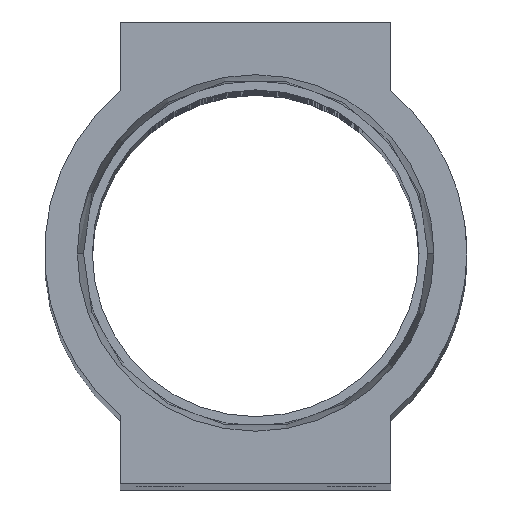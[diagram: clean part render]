
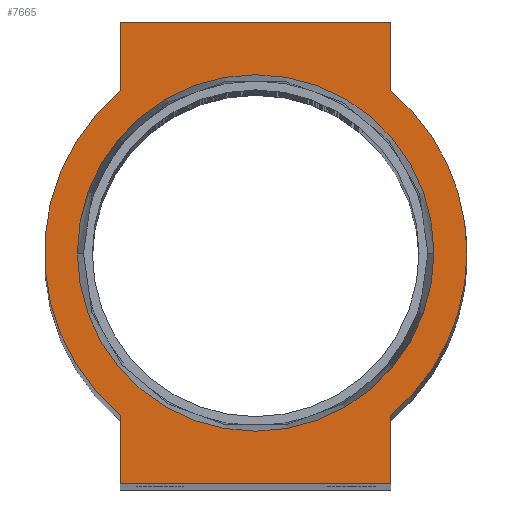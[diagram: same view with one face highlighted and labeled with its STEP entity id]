
A CAD part, top view. The second image highlights one B-rep face of the part: STEP entity #7665.
In plain terms, the highlighted planar face has unit normal (0, 0, 1).
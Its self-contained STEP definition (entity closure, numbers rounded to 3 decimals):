
#152 = EDGE_CURVE ( 'NONE', #3737, #10526, #8941, .T. ) ;
#542 = VECTOR ( 'NONE', #3922, 1000. ) ;
#1403 = VERTEX_POINT ( 'NONE', #6274 ) ;
#1463 = ORIENTED_EDGE ( 'NONE', *, *, #152, .T. ) ;
#1607 = ORIENTED_EDGE ( 'NONE', *, *, #6277, .F. ) ;
#1637 = EDGE_CURVE ( 'NONE', #11721, #2885, #7861, .T. ) ;
#1684 = VERTEX_POINT ( 'NONE', #3119 ) ;
#1737 = DIRECTION ( 'NONE',  ( 0., 0., 1. ) ) ;
#2238 = VECTOR ( 'NONE', #9336, 1000. ) ;
#2259 = ORIENTED_EDGE ( 'NONE', *, *, #7930, .T. ) ;
#2376 = CARTESIAN_POINT ( 'NONE',  ( 0., 0., 0. ) ) ;
#2377 = LINE ( 'NONE', #7306, #2238 ) ;
#2485 = VERTEX_POINT ( 'NONE', #4207 ) ;
#2815 = CIRCLE ( 'NONE', #10149, 18.75 ) ;
#2885 = VERTEX_POINT ( 'NONE', #10487 ) ;
#3119 = CARTESIAN_POINT ( 'NONE',  ( -12., 14.407, 0. ) ) ;
#3438 = EDGE_LOOP ( 'NONE', ( #5275, #12831, #10856, #3832, #2259, #1463, #8634, #11453, #6826 ) ) ;
#3504 = FACE_BOUND ( 'NONE', #4602, .T. ) ;
#3654 = AXIS2_PLACEMENT_3D ( 'NONE', #10814, #1737, #6811 ) ;
#3737 = VERTEX_POINT ( 'NONE', #13004 ) ;
#3832 = ORIENTED_EDGE ( 'NONE', *, *, #9642, .T. ) ;
#3922 = DIRECTION ( 'NONE',  ( 0., -1., 0. ) ) ;
#4207 = CARTESIAN_POINT ( 'NONE',  ( 18.75, 0., 0. ) ) ;
#4270 = PLANE ( 'NONE',  #6220 ) ;
#4334 = EDGE_CURVE ( 'NONE', #1403, #11340, #6386, .T. ) ;
#4509 = CARTESIAN_POINT ( 'NONE',  ( 12., -20.5, 0. ) ) ;
#4602 = EDGE_LOOP ( 'NONE', ( #6512, #1607 ) ) ;
#4789 = DIRECTION ( 'NONE',  ( 0., 0., 1. ) ) ;
#4916 = CIRCLE ( 'NONE', #5326, 15.827 ) ;
#5091 = DIRECTION ( 'NONE',  ( 1., 0., 0. ) ) ;
#5275 = ORIENTED_EDGE ( 'NONE', *, *, #8357, .T. ) ;
#5326 = AXIS2_PLACEMENT_3D ( 'NONE', #10744, #6684, #8518 ) ;
#5963 = AXIS2_PLACEMENT_3D ( 'NONE', #10665, #4789, #12800 ) ;
#6220 = AXIS2_PLACEMENT_3D ( 'NONE', #2376, #8489, #6387 ) ;
#6274 = CARTESIAN_POINT ( 'NONE',  ( 15.827, 0., 0. ) ) ;
#6277 = EDGE_CURVE ( 'NONE', #11340, #1403, #4916, .T. ) ;
#6329 = CARTESIAN_POINT ( 'NONE',  ( 12., -20.5, 0. ) ) ;
#6386 = CIRCLE ( 'NONE', #5963, 15.827 ) ;
#6387 = DIRECTION ( 'NONE',  ( 1., 0., 0. ) ) ;
#6512 = ORIENTED_EDGE ( 'NONE', *, *, #4334, .F. ) ;
#6684 = DIRECTION ( 'NONE',  ( 0., 0., 1. ) ) ;
#6688 = EDGE_CURVE ( 'NONE', #10526, #7107, #7703, .T. ) ;
#6690 = CARTESIAN_POINT ( 'NONE',  ( 12., -14.407, 0. ) ) ;
#6696 = EDGE_CURVE ( 'NONE', #2885, #1684, #6707, .T. ) ;
#6707 = LINE ( 'NONE', #10702, #8493 ) ;
#6744 = VECTOR ( 'NONE', #10776, 1000. ) ;
#6769 = CARTESIAN_POINT ( 'NONE',  ( 12., 14.407, 0. ) ) ;
#6777 = CARTESIAN_POINT ( 'NONE',  ( -12., -20.5, 0. ) ) ;
#6811 = DIRECTION ( 'NONE',  ( 1., 0., 0. ) ) ;
#6826 = ORIENTED_EDGE ( 'NONE', *, *, #10296, .T. ) ;
#6975 = VECTOR ( 'NONE', #7664, 1000. ) ;
#7107 = VERTEX_POINT ( 'NONE', #6690 ) ;
#7247 = FACE_OUTER_BOUND ( 'NONE', #3438, .T. ) ;
#7306 = CARTESIAN_POINT ( 'NONE',  ( 12., 20.5, 0. ) ) ;
#7390 = DIRECTION ( 'NONE',  ( 1., 0., 0. ) ) ;
#7664 = DIRECTION ( 'NONE',  ( -1., 0., 0. ) ) ;
#7665 = ADVANCED_FACE ( 'NONE', ( #3504, #7247 ), #4270, .T. ) ;
#7703 = LINE ( 'NONE', #4509, #12258 ) ;
#7850 = AXIS2_PLACEMENT_3D ( 'NONE', #8329, #11092, #5091 ) ;
#7861 = LINE ( 'NONE', #11849, #6975 ) ;
#7930 = EDGE_CURVE ( 'NONE', #9731, #3737, #9756, .T. ) ;
#8329 = CARTESIAN_POINT ( 'NONE',  ( 0., 0., 0. ) ) ;
#8357 = EDGE_CURVE ( 'NONE', #8798, #11721, #2377, .T. ) ;
#8489 = DIRECTION ( 'NONE',  ( 0., 0., 1. ) ) ;
#8493 = VECTOR ( 'NONE', #12785, 1000. ) ;
#8518 = DIRECTION ( 'NONE',  ( 1., 0., 0. ) ) ;
#8634 = ORIENTED_EDGE ( 'NONE', *, *, #6688, .T. ) ;
#8798 = VERTEX_POINT ( 'NONE', #6769 ) ;
#8885 = CIRCLE ( 'NONE', #3654, 18.75 ) ;
#8941 = LINE ( 'NONE', #6777, #6744 ) ;
#9136 = CARTESIAN_POINT ( 'NONE',  ( 12., 20.5, 0. ) ) ;
#9336 = DIRECTION ( 'NONE',  ( 0., 1., 0. ) ) ;
#9562 = DIRECTION ( 'NONE',  ( 0., 0., 1. ) ) ;
#9642 = EDGE_CURVE ( 'NONE', #1684, #9731, #2815, .T. ) ;
#9731 = VERTEX_POINT ( 'NONE', #12858 ) ;
#9756 = LINE ( 'NONE', #12956, #542 ) ;
#9778 = CARTESIAN_POINT ( 'NONE',  ( -15.827, 0., 0. ) ) ;
#10149 = AXIS2_PLACEMENT_3D ( 'NONE', #10548, #9562, #7390 ) ;
#10296 = EDGE_CURVE ( 'NONE', #2485, #8798, #8885, .T. ) ;
#10487 = CARTESIAN_POINT ( 'NONE',  ( -12., 20.5, 0. ) ) ;
#10504 = DIRECTION ( 'NONE',  ( 0., 1., 0. ) ) ;
#10526 = VERTEX_POINT ( 'NONE', #6329 ) ;
#10548 = CARTESIAN_POINT ( 'NONE',  ( 0., 0., 0. ) ) ;
#10665 = CARTESIAN_POINT ( 'NONE',  ( 0., 0., 0. ) ) ;
#10702 = CARTESIAN_POINT ( 'NONE',  ( -12., 20.5, 0. ) ) ;
#10744 = CARTESIAN_POINT ( 'NONE',  ( 0., 0., 0. ) ) ;
#10776 = DIRECTION ( 'NONE',  ( 1., 0., 0. ) ) ;
#10814 = CARTESIAN_POINT ( 'NONE',  ( 0., 0., 0. ) ) ;
#10856 = ORIENTED_EDGE ( 'NONE', *, *, #6696, .T. ) ;
#11013 = EDGE_CURVE ( 'NONE', #7107, #2485, #12017, .T. ) ;
#11092 = DIRECTION ( 'NONE',  ( 0., 0., 1. ) ) ;
#11340 = VERTEX_POINT ( 'NONE', #9778 ) ;
#11453 = ORIENTED_EDGE ( 'NONE', *, *, #11013, .T. ) ;
#11721 = VERTEX_POINT ( 'NONE', #9136 ) ;
#11849 = CARTESIAN_POINT ( 'NONE',  ( -12., 20.5, 0. ) ) ;
#12017 = CIRCLE ( 'NONE', #7850, 18.75 ) ;
#12258 = VECTOR ( 'NONE', #10504, 1000. ) ;
#12785 = DIRECTION ( 'NONE',  ( 0., -1., 0. ) ) ;
#12800 = DIRECTION ( 'NONE',  ( 1., 0., 0. ) ) ;
#12831 = ORIENTED_EDGE ( 'NONE', *, *, #1637, .T. ) ;
#12858 = CARTESIAN_POINT ( 'NONE',  ( -12., -14.407, 0. ) ) ;
#12956 = CARTESIAN_POINT ( 'NONE',  ( -12., -20.5, 0. ) ) ;
#13004 = CARTESIAN_POINT ( 'NONE',  ( -12., -20.5, 0. ) ) ;
